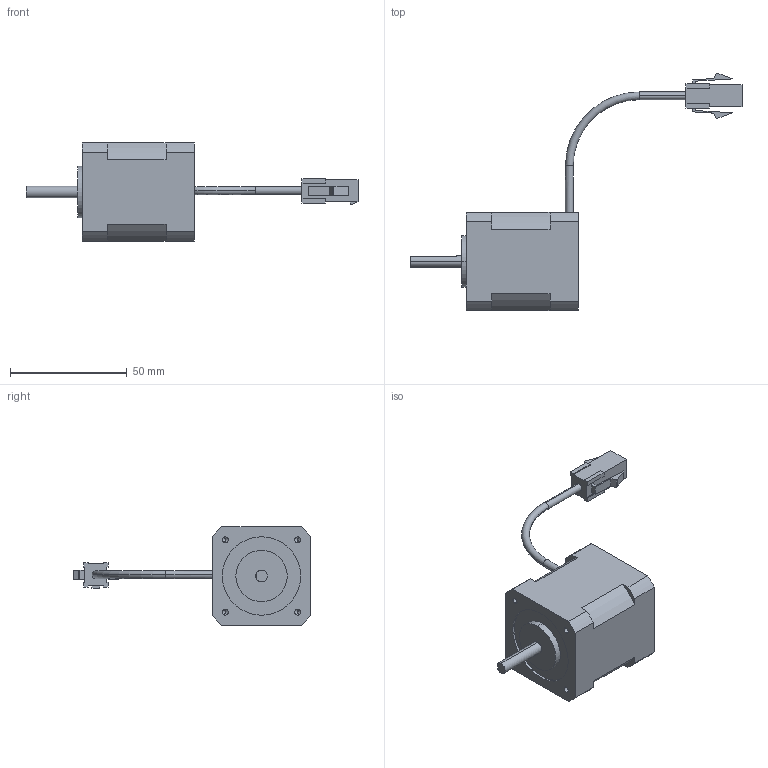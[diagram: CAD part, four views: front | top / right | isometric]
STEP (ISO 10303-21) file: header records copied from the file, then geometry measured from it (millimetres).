
FILE_DESCRIPTION (( 'STEP AP203' ), '1' );
FILE_NAME ('P21-MO-042-03-R00.STEP', '2015-06-30T07:55:38', ( '' ), ( '' ), 'SwSTEP 2.0', 'SolidWorks 2013', '' );
FILE_SCHEMA (( 'CONFIG_CONTROL_DESIGN' ));
Length unit declared in the file: millimetre
Products named in the file (3): M21-MO-042-03-R00_湀_; Power_Cable_ル遽; P21-MO-042-03-R00
Assembly tree (2 placements, depth 2):
  P21-MO-042-03-R00
    M21-MO-042-03-R00_湀_
    Power_Cable_ル遽
Bounding box: 142.28 x 101.61 x 42 mm (x, y, z)
Volume: 84592.5 mm3; surface area: 15831.4 mm2
Topology: 2 solids, 2 shells, 240 faces, 616 edges, 402 vertices
Faces by surface type: plane 160, cylinder 70, cone 8, torus 2
Entity records: 7505 total; most frequent: CARTESIAN_POINT 1255, DIRECTION 1246, ORIENTED_EDGE 1216, EDGE_CURVE 608, LINE 460, VECTOR 460, VERTEX_POINT 402, AXIS2_PLACEMENT_3D 393
